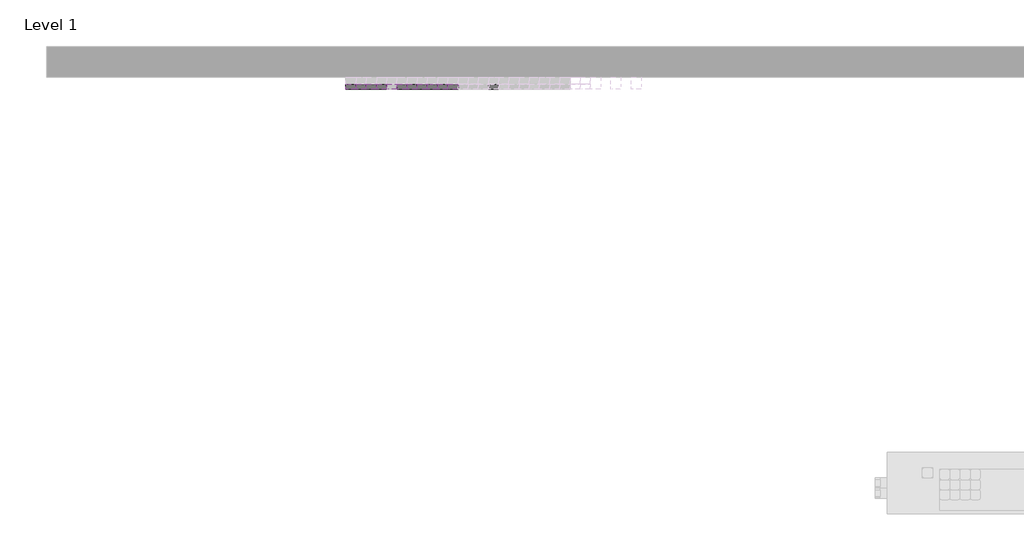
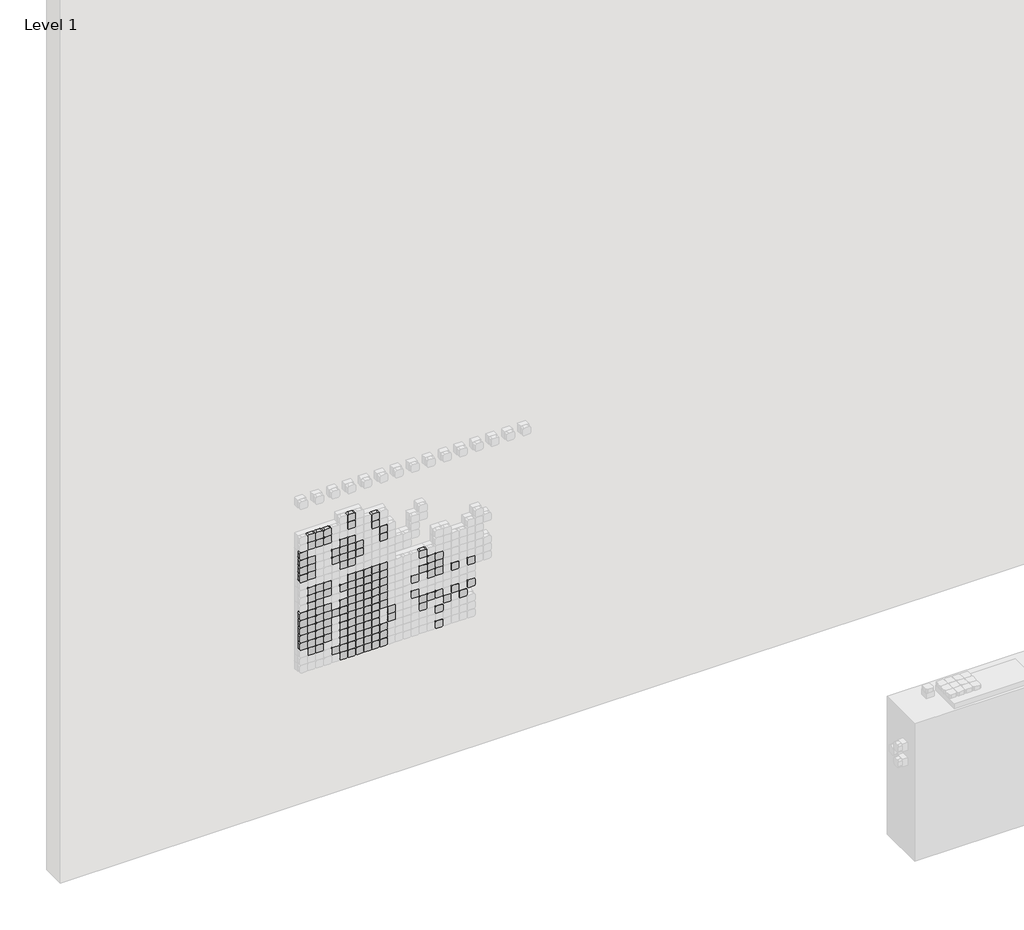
# One storey, part 2 of 71: 149 proxies.
"""IFC4 building model written with IfcOpenShell, lengths in millimetres."""

from ifc_helpers import new_model, si_unit, origin, place, context, project, spatial, transform, mapped, element, save
from components import generic_models_afde289c

model = new_model("IFC4")

# Units and contexts
model_context = context("Model", 3, world=origin())
ifc_project = project(units=[si_unit("LENGTHUNIT", "METRE", prefix="MILLI")], contexts=[model_context])

# Site, building, storey
site = spatial("IfcSite", under=ifc_project)
building = spatial("IfcBuilding", under=site)
storey = spatial("IfcBuildingStorey", under=building, Name="Level 1", Elevation=0.0)

# Proxies
placement = place(None, origin())
generic_models_shape = generic_models_afde289c(model_context)
element("IfcBuildingElementProxy", 1, Name="Pixel_M : Pixel_M", ObjectType="Pixel_M : Pixel_M", at=placement, inside=storey, context=model_context, shape_type="MappedRepresentation", body=[
    mapped(generic_models_shape, transform((2520.0, -75.0, 1263.7975209), x_axis=(1.0, 0.0, 0.0), y_axis=(0.0, 0.0, 1.0), z_axis=(0.0, -1.0, 0.0))),
])
element("IfcBuildingElementProxy", 2, Name="Pixel_M : Pixel_M", ObjectType="Pixel_M : Pixel_M", at=placement, inside=storey, context=model_context, shape_type="MappedRepresentation", body=[
    mapped(generic_models_shape, transform((2420.0, -75.0, 1263.7975209), x_axis=(1.0, 0.0, 0.0), y_axis=(0.0, 0.0, 1.0), z_axis=(0.0, -1.0, 0.0))),
])
element("IfcBuildingElementProxy", 3, Name="Pixel_M : Pixel_M", ObjectType="Pixel_M : Pixel_M", at=placement, inside=storey, context=model_context, shape_type="MappedRepresentation", body=[
    mapped(generic_models_shape, transform((2520.0, -75.0, 1113.7975209), x_axis=(1.0, 0.0, 0.0), y_axis=(0.0, 0.0, 1.0), z_axis=(0.0, -1.0, 0.0))),
])
element("IfcBuildingElementProxy", 4, Name="Pixel_M : Pixel_M", ObjectType="Pixel_M : Pixel_M", at=placement, inside=storey, context=model_context, shape_type="MappedRepresentation", body=[
    mapped(generic_models_shape, transform((2420.0, -75.0, 1113.7975209), x_axis=(1.0, 0.0, 0.0), y_axis=(0.0, 0.0, 1.0), z_axis=(0.0, -1.0, 0.0))),
])
element("IfcBuildingElementProxy", 5, Name="Pixel_M : Pixel_M", ObjectType="Pixel_M : Pixel_M", at=placement, inside=storey, context=model_context, shape_type="MappedRepresentation", body=[
    mapped(generic_models_shape, transform((2320.0, -75.0, 1013.7975209), x_axis=(1.0, 0.0, 0.0), y_axis=(0.0, 0.0, 1.0), z_axis=(0.0, -1.0, 0.0))),
])
element("IfcBuildingElementProxy", 6, Name="Pixel_M : Pixel_M", ObjectType="Pixel_M : Pixel_M", at=placement, inside=storey, context=model_context, shape_type="MappedRepresentation", body=[
    mapped(generic_models_shape, transform((2320.0, -75.0, 913.7975209), x_axis=(1.0, 0.0, 0.0), y_axis=(0.0, 0.0, 1.0), z_axis=(0.0, -1.0, 0.0))),
])
element("IfcBuildingElementProxy", 7, Name="Pixel_M : Pixel_M", ObjectType="Pixel_M : Pixel_M", at=placement, inside=storey, context=model_context, shape_type="MappedRepresentation", body=[
    mapped(generic_models_shape, transform((1770.0, -75.0, 1663.7975209), x_axis=(1.0, 0.0, 0.0), y_axis=(0.0, 0.0, 1.0), z_axis=(0.0, -1.0, 0.0))),
])
element("IfcBuildingElementProxy", 8, Name="Pixel_M : Pixel_M", ObjectType="Pixel_M : Pixel_M", at=placement, inside=storey, context=model_context, shape_type="MappedRepresentation", body=[
    mapped(generic_models_shape, transform((1720.0, -75.0, 1663.7975209), x_axis=(1.0, 0.0, 0.0), y_axis=(0.0, 0.0, 1.0), z_axis=(0.0, -1.0, 0.0))),
])
element("IfcBuildingElementProxy", 9, Name="Pixel_M : Pixel_M", ObjectType="Pixel_M : Pixel_M", at=placement, inside=storey, context=model_context, shape_type="MappedRepresentation", body=[
    mapped(generic_models_shape, transform((1770.0, -75.0, 1513.7975209), x_axis=(1.0, 0.0, 0.0), y_axis=(0.0, 0.0, 1.0), z_axis=(0.0, -1.0, 0.0))),
])
element("IfcBuildingElementProxy", 10, Name="Pixel_M : Pixel_M", ObjectType="Pixel_M : Pixel_M", at=placement, inside=storey, context=model_context, shape_type="MappedRepresentation", body=[
    mapped(generic_models_shape, transform((1720.0, -75.0, 1513.7975209), x_axis=(1.0, 0.0, 0.0), y_axis=(0.0, 0.0, 1.0), z_axis=(0.0, -1.0, 0.0))),
])
element("IfcBuildingElementProxy", 11, Name="Pixel_M : Pixel_M", ObjectType="Pixel_M : Pixel_M", at=placement, inside=storey, context=model_context, shape_type="MappedRepresentation", body=[
    mapped(generic_models_shape, transform((1820.0, -75.0, 1613.7975209), x_axis=(1.0, 0.0, 0.0), y_axis=(0.0, 0.0, 1.0), z_axis=(0.0, -1.0, 0.0))),
])
element("IfcBuildingElementProxy", 12, Name="Pixel_M : Pixel_M", ObjectType="Pixel_M : Pixel_M", at=placement, inside=storey, context=model_context, shape_type="MappedRepresentation", body=[
    mapped(generic_models_shape, transform((1770.0, -75.0, 1613.7975209), x_axis=(1.0, 0.0, 0.0), y_axis=(0.0, 0.0, 1.0), z_axis=(0.0, -1.0, 0.0))),
])
element("IfcBuildingElementProxy", 13, Name="Pixel_M : Pixel_M", ObjectType="Pixel_M : Pixel_M", at=placement, inside=storey, context=model_context, shape_type="MappedRepresentation", body=[
    mapped(generic_models_shape, transform((1720.0, -75.0, 1613.7975209), x_axis=(1.0, 0.0, 0.0), y_axis=(0.0, 0.0, 1.0), z_axis=(0.0, -1.0, 0.0))),
])
element("IfcBuildingElementProxy", 14, Name="Pixel_M : Pixel_M", ObjectType="Pixel_M : Pixel_M", at=placement, inside=storey, context=model_context, shape_type="MappedRepresentation", body=[
    mapped(generic_models_shape, transform((1670.0, -75.0, 1613.7975209), x_axis=(1.0, 0.0, 0.0), y_axis=(0.0, 0.0, 1.0), z_axis=(0.0, -1.0, 0.0))),
])
element("IfcBuildingElementProxy", 15, Name="Pixel_M : Pixel_M", ObjectType="Pixel_M : Pixel_M", at=placement, inside=storey, context=model_context, shape_type="MappedRepresentation", body=[
    mapped(generic_models_shape, transform((1820.0, -75.0, 1563.7975209), x_axis=(1.0, 0.0, 0.0), y_axis=(0.0, 0.0, 1.0), z_axis=(0.0, -1.0, 0.0))),
])
element("IfcBuildingElementProxy", 16, Name="Pixel_M : Pixel_M", ObjectType="Pixel_M : Pixel_M", at=placement, inside=storey, context=model_context, shape_type="MappedRepresentation", body=[
    mapped(generic_models_shape, transform((1770.0, -75.0, 1563.7975209), x_axis=(1.0, 0.0, 0.0), y_axis=(0.0, 0.0, 1.0), z_axis=(0.0, -1.0, 0.0))),
])
element("IfcBuildingElementProxy", 17, Name="Pixel_M : Pixel_M", ObjectType="Pixel_M : Pixel_M", at=placement, inside=storey, context=model_context, shape_type="MappedRepresentation", body=[
    mapped(generic_models_shape, transform((1720.0, -75.0, 1563.7975209), x_axis=(1.0, 0.0, 0.0), y_axis=(0.0, 0.0, 1.0), z_axis=(0.0, -1.0, 0.0))),
])
element("IfcBuildingElementProxy", 18, Name="Pixel_M : Pixel_M", ObjectType="Pixel_M : Pixel_M", at=placement, inside=storey, context=model_context, shape_type="MappedRepresentation", body=[
    mapped(generic_models_shape, transform((1670.0, -75.0, 1563.7975209), x_axis=(1.0, 0.0, 0.0), y_axis=(0.0, 0.0, 1.0), z_axis=(0.0, -1.0, 0.0))),
])
element("IfcBuildingElementProxy", 19, Name="Pixel_M : Pixel_M", ObjectType="Pixel_M : Pixel_M", at=placement, inside=storey, context=model_context, shape_type="MappedRepresentation", body=[
    mapped(generic_models_shape, transform((1620.0, -75.0, 1413.7975209), x_axis=(1.0, 0.0, 0.0), y_axis=(0.0, 0.0, 1.0), z_axis=(0.0, -1.0, 0.0))),
])
element("IfcBuildingElementProxy", 20, Name="Pixel_M : Pixel_M", ObjectType="Pixel_M : Pixel_M", at=placement, inside=storey, context=model_context, shape_type="MappedRepresentation", body=[
    mapped(generic_models_shape, transform((1570.0, -75.0, 1413.7975209), x_axis=(1.0, 0.0, 0.0), y_axis=(0.0, 0.0, 1.0), z_axis=(0.0, -1.0, 0.0))),
])
element("IfcBuildingElementProxy", 21, Name="Pixel_M : Pixel_M", ObjectType="Pixel_M : Pixel_M", at=placement, inside=storey, context=model_context, shape_type="MappedRepresentation", body=[
    mapped(generic_models_shape, transform((1520.0, -75.0, 1413.7975209), x_axis=(1.0, 0.0, 0.0), y_axis=(0.0, 0.0, 1.0), z_axis=(0.0, -1.0, 0.0))),
])
element("IfcBuildingElementProxy", 22, Name="Pixel_M : Pixel_M", ObjectType="Pixel_M : Pixel_M", at=placement, inside=storey, context=model_context, shape_type="MappedRepresentation", body=[
    mapped(generic_models_shape, transform((1620.0, -75.0, 1363.7975209), x_axis=(1.0, 0.0, 0.0), y_axis=(0.0, 0.0, 1.0), z_axis=(0.0, -1.0, 0.0))),
])
element("IfcBuildingElementProxy", 23, Name="Pixel_M : Pixel_M", ObjectType="Pixel_M : Pixel_M", at=placement, inside=storey, context=model_context, shape_type="MappedRepresentation", body=[
    mapped(generic_models_shape, transform((1570.0, -75.0, 1363.7975209), x_axis=(1.0, 0.0, 0.0), y_axis=(0.0, 0.0, 1.0), z_axis=(0.0, -1.0, 0.0))),
])
element("IfcBuildingElementProxy", 24, Name="Pixel_M : Pixel_M", ObjectType="Pixel_M : Pixel_M", at=placement, inside=storey, context=model_context, shape_type="MappedRepresentation", body=[
    mapped(generic_models_shape, transform((1520.0, -75.0, 1363.7975209), x_axis=(1.0, 0.0, 0.0), y_axis=(0.0, 0.0, 1.0), z_axis=(0.0, -1.0, 0.0))),
])
element("IfcBuildingElementProxy", 25, Name="Pixel_M : Pixel_M", ObjectType="Pixel_M : Pixel_M", at=placement, inside=storey, context=model_context, shape_type="MappedRepresentation", body=[
    mapped(generic_models_shape, transform((1920.0, -75.0, 1063.7975209), x_axis=(1.0, 0.0, 0.0), y_axis=(0.0, 0.0, 1.0), z_axis=(0.0, -1.0, 0.0))),
])
element("IfcBuildingElementProxy", 26, Name="Pixel_M : Pixel_M", ObjectType="Pixel_M : Pixel_M", at=placement, inside=storey, context=model_context, shape_type="MappedRepresentation", body=[
    mapped(generic_models_shape, transform((1870.0, -75.0, 1063.7975209), x_axis=(1.0, 0.0, 0.0), y_axis=(0.0, 0.0, 1.0), z_axis=(0.0, -1.0, 0.0))),
])
element("IfcBuildingElementProxy", 27, Name="Pixel_M : Pixel_M", ObjectType="Pixel_M : Pixel_M", at=placement, inside=storey, context=model_context, shape_type="MappedRepresentation", body=[
    mapped(generic_models_shape, transform((1920.0, -75.0, 1113.7975209), x_axis=(1.0, 0.0, 0.0), y_axis=(0.0, 0.0, 1.0), z_axis=(0.0, -1.0, 0.0))),
])
element("IfcBuildingElementProxy", 28, Name="Pixel_M : Pixel_M", ObjectType="Pixel_M : Pixel_M", at=placement, inside=storey, context=model_context, shape_type="MappedRepresentation", body=[
    mapped(generic_models_shape, transform((1870.0, -75.0, 1113.7975209), x_axis=(1.0, 0.0, 0.0), y_axis=(0.0, 0.0, 1.0), z_axis=(0.0, -1.0, 0.0))),
])
element("IfcBuildingElementProxy", 29, Name="Pixel_M : Pixel_M", ObjectType="Pixel_M : Pixel_M", at=placement, inside=storey, context=model_context, shape_type="MappedRepresentation", body=[
    mapped(generic_models_shape, transform((1820.0, -75.0, 1113.7975209), x_axis=(1.0, 0.0, 0.0), y_axis=(0.0, 0.0, 1.0), z_axis=(0.0, -1.0, 0.0))),
])
element("IfcBuildingElementProxy", 30, Name="Pixel_M : Pixel_M", ObjectType="Pixel_M : Pixel_M", at=placement, inside=storey, context=model_context, shape_type="MappedRepresentation", body=[
    mapped(generic_models_shape, transform((1770.0, -75.0, 1113.7975209), x_axis=(1.0, 0.0, 0.0), y_axis=(0.0, 0.0, 1.0), z_axis=(0.0, -1.0, 0.0))),
])
element("IfcBuildingElementProxy", 31, Name="Pixel_M : Pixel_M", ObjectType="Pixel_M : Pixel_M", at=placement, inside=storey, context=model_context, shape_type="MappedRepresentation", body=[
    mapped(generic_models_shape, transform((1720.0, -75.0, 1113.7975209), x_axis=(1.0, 0.0, 0.0), y_axis=(0.0, 0.0, 1.0), z_axis=(0.0, -1.0, 0.0))),
])
element("IfcBuildingElementProxy", 32, Name="Pixel_M : Pixel_M", ObjectType="Pixel_M : Pixel_M", at=placement, inside=storey, context=model_context, shape_type="MappedRepresentation", body=[
    mapped(generic_models_shape, transform((1820.0, -75.0, 1063.7975209), x_axis=(1.0, 0.0, 0.0), y_axis=(0.0, 0.0, 1.0), z_axis=(0.0, -1.0, 0.0))),
])
element("IfcBuildingElementProxy", 33, Name="Pixel_M : Pixel_M", ObjectType="Pixel_M : Pixel_M", at=placement, inside=storey, context=model_context, shape_type="MappedRepresentation", body=[
    mapped(generic_models_shape, transform((1770.0, -75.0, 1063.7975209), x_axis=(1.0, 0.0, 0.0), y_axis=(0.0, 0.0, 1.0), z_axis=(0.0, -1.0, 0.0))),
])
element("IfcBuildingElementProxy", 34, Name="Pixel_M : Pixel_M", ObjectType="Pixel_M : Pixel_M", at=placement, inside=storey, context=model_context, shape_type="MappedRepresentation", body=[
    mapped(generic_models_shape, transform((1720.0, -75.0, 1063.7975209), x_axis=(1.0, 0.0, 0.0), y_axis=(0.0, 0.0, 1.0), z_axis=(0.0, -1.0, 0.0))),
])
element("IfcBuildingElementProxy", 35, Name="Pixel_M : Pixel_M", ObjectType="Pixel_M : Pixel_M", at=placement, inside=storey, context=model_context, shape_type="MappedRepresentation", body=[
    mapped(generic_models_shape, transform((1970.0, -75.0, 913.7975209), x_axis=(1.0, 0.0, 0.0), y_axis=(0.0, 0.0, 1.0), z_axis=(0.0, -1.0, 0.0))),
])
element("IfcBuildingElementProxy", 36, Name="Pixel_M : Pixel_M", ObjectType="Pixel_M : Pixel_M", at=placement, inside=storey, context=model_context, shape_type="MappedRepresentation", body=[
    mapped(generic_models_shape, transform((1920.0, -75.0, 913.7975209), x_axis=(1.0, 0.0, 0.0), y_axis=(0.0, 0.0, 1.0), z_axis=(0.0, -1.0, 0.0))),
])
element("IfcBuildingElementProxy", 37, Name="Pixel_M : Pixel_M", ObjectType="Pixel_M : Pixel_M", at=placement, inside=storey, context=model_context, shape_type="MappedRepresentation", body=[
    mapped(generic_models_shape, transform((1870.0, -75.0, 913.7975209), x_axis=(1.0, 0.0, 0.0), y_axis=(0.0, 0.0, 1.0), z_axis=(0.0, -1.0, 0.0))),
])
element("IfcBuildingElementProxy", 38, Name="Pixel_M : Pixel_M", ObjectType="Pixel_M : Pixel_M", at=placement, inside=storey, context=model_context, shape_type="MappedRepresentation", body=[
    mapped(generic_models_shape, transform((1970.0, -75.0, 963.7975209), x_axis=(1.0, 0.0, 0.0), y_axis=(0.0, 0.0, 1.0), z_axis=(0.0, -1.0, 0.0))),
])
element("IfcBuildingElementProxy", 39, Name="Pixel_M : Pixel_M", ObjectType="Pixel_M : Pixel_M", at=placement, inside=storey, context=model_context, shape_type="MappedRepresentation", body=[
    mapped(generic_models_shape, transform((1920.0, -75.0, 963.7975209), x_axis=(1.0, 0.0, 0.0), y_axis=(0.0, 0.0, 1.0), z_axis=(0.0, -1.0, 0.0))),
])
element("IfcBuildingElementProxy", 40, Name="Pixel_M : Pixel_M", ObjectType="Pixel_M : Pixel_M", at=placement, inside=storey, context=model_context, shape_type="MappedRepresentation", body=[
    mapped(generic_models_shape, transform((1870.0, -75.0, 963.7975209), x_axis=(1.0, 0.0, 0.0), y_axis=(0.0, 0.0, 1.0), z_axis=(0.0, -1.0, 0.0))),
])
element("IfcBuildingElementProxy", 41, Name="Pixel_M : Pixel_M", ObjectType="Pixel_M : Pixel_M", at=placement, inside=storey, context=model_context, shape_type="MappedRepresentation", body=[
    mapped(generic_models_shape, transform((1820.0, -75.0, 1013.7975209), x_axis=(1.0, 0.0, 0.0), y_axis=(0.0, 0.0, 1.0), z_axis=(0.0, -1.0, 0.0))),
])
element("IfcBuildingElementProxy", 42, Name="Pixel_M : Pixel_M", ObjectType="Pixel_M : Pixel_M", at=placement, inside=storey, context=model_context, shape_type="MappedRepresentation", body=[
    mapped(generic_models_shape, transform((1770.0, -75.0, 1013.7975209), x_axis=(1.0, 0.0, 0.0), y_axis=(0.0, 0.0, 1.0), z_axis=(0.0, -1.0, 0.0))),
])
element("IfcBuildingElementProxy", 43, Name="Pixel_M : Pixel_M", ObjectType="Pixel_M : Pixel_M", at=placement, inside=storey, context=model_context, shape_type="MappedRepresentation", body=[
    mapped(generic_models_shape, transform((1720.0, -75.0, 1013.7975209), x_axis=(1.0, 0.0, 0.0), y_axis=(0.0, 0.0, 1.0), z_axis=(0.0, -1.0, 0.0))),
])
element("IfcBuildingElementProxy", 44, Name="Pixel_M : Pixel_M", ObjectType="Pixel_M : Pixel_M", at=placement, inside=storey, context=model_context, shape_type="MappedRepresentation", body=[
    mapped(generic_models_shape, transform((1820.0, -75.0, 913.7975209), x_axis=(1.0, 0.0, 0.0), y_axis=(0.0, 0.0, 1.0), z_axis=(0.0, -1.0, 0.0))),
])
element("IfcBuildingElementProxy", 45, Name="Pixel_M : Pixel_M", ObjectType="Pixel_M : Pixel_M", at=placement, inside=storey, context=model_context, shape_type="MappedRepresentation", body=[
    mapped(generic_models_shape, transform((1770.0, -75.0, 913.7975209), x_axis=(1.0, 0.0, 0.0), y_axis=(0.0, 0.0, 1.0), z_axis=(0.0, -1.0, 0.0))),
])
element("IfcBuildingElementProxy", 46, Name="Pixel_M : Pixel_M", ObjectType="Pixel_M : Pixel_M", at=placement, inside=storey, context=model_context, shape_type="MappedRepresentation", body=[
    mapped(generic_models_shape, transform((1720.0, -75.0, 913.7975209), x_axis=(1.0, 0.0, 0.0), y_axis=(0.0, 0.0, 1.0), z_axis=(0.0, -1.0, 0.0))),
])
element("IfcBuildingElementProxy", 47, Name="Pixel_M : Pixel_M", ObjectType="Pixel_M : Pixel_M", at=placement, inside=storey, context=model_context, shape_type="MappedRepresentation", body=[
    mapped(generic_models_shape, transform((1970.0, -75.0, 1013.7975209), x_axis=(1.0, 0.0, 0.0), y_axis=(0.0, 0.0, 1.0), z_axis=(0.0, -1.0, 0.0))),
])
element("IfcBuildingElementProxy", 48, Name="Pixel_M : Pixel_M", ObjectType="Pixel_M : Pixel_M", at=placement, inside=storey, context=model_context, shape_type="MappedRepresentation", body=[
    mapped(generic_models_shape, transform((1920.0, -75.0, 1013.7975209), x_axis=(1.0, 0.0, 0.0), y_axis=(0.0, 0.0, 1.0), z_axis=(0.0, -1.0, 0.0))),
])
element("IfcBuildingElementProxy", 49, Name="Pixel_M : Pixel_M", ObjectType="Pixel_M : Pixel_M", at=placement, inside=storey, context=model_context, shape_type="MappedRepresentation", body=[
    mapped(generic_models_shape, transform((1870.0, -75.0, 1013.7975209), x_axis=(1.0, 0.0, 0.0), y_axis=(0.0, 0.0, 1.0), z_axis=(0.0, -1.0, 0.0))),
])
element("IfcBuildingElementProxy", 50, Name="Pixel_M : Pixel_M", ObjectType="Pixel_M : Pixel_M", at=placement, inside=storey, context=model_context, shape_type="MappedRepresentation", body=[
    mapped(generic_models_shape, transform((1820.0, -75.0, 963.7975209), x_axis=(1.0, 0.0, 0.0), y_axis=(0.0, 0.0, 1.0), z_axis=(0.0, -1.0, 0.0))),
])
element("IfcBuildingElementProxy", 51, Name="Pixel_M : Pixel_M", ObjectType="Pixel_M : Pixel_M", at=placement, inside=storey, context=model_context, shape_type="MappedRepresentation", body=[
    mapped(generic_models_shape, transform((1770.0, -75.0, 963.7975209), x_axis=(1.0, 0.0, 0.0), y_axis=(0.0, 0.0, 1.0), z_axis=(0.0, -1.0, 0.0))),
])
element("IfcBuildingElementProxy", 52, Name="Pixel_M : Pixel_M", ObjectType="Pixel_M : Pixel_M", at=placement, inside=storey, context=model_context, shape_type="MappedRepresentation", body=[
    mapped(generic_models_shape, transform((1720.0, -75.0, 963.7975209), x_axis=(1.0, 0.0, 0.0), y_axis=(0.0, 0.0, 1.0), z_axis=(0.0, -1.0, 0.0))),
])
element("IfcBuildingElementProxy", 53, Name="Pixel_M : Pixel_M", ObjectType="Pixel_M : Pixel_M", at=placement, inside=storey, context=model_context, shape_type="MappedRepresentation", body=[
    mapped(generic_models_shape, transform((1670.0, -75.0, 963.7975209), x_axis=(1.0, 0.0, 0.0), y_axis=(0.0, 0.0, 1.0), z_axis=(0.0, -1.0, 0.0))),
])
element("IfcBuildingElementProxy", 54, Name="Pixel_M : Pixel_M", ObjectType="Pixel_M : Pixel_M", at=placement, inside=storey, context=model_context, shape_type="MappedRepresentation", body=[
    mapped(generic_models_shape, transform((2320.0, -75.0, 1263.7975209), x_axis=(1.0, 0.0, 0.0), y_axis=(0.0, 0.0, 1.0), z_axis=(0.0, -1.0, 0.0))),
])
element("IfcBuildingElementProxy", 55, Name="Pixel_M : Pixel_M", ObjectType="Pixel_M : Pixel_M", at=placement, inside=storey, context=model_context, shape_type="MappedRepresentation", body=[
    mapped(generic_models_shape, transform((2270.0, -75.0, 1263.7975209), x_axis=(1.0, 0.0, 0.0), y_axis=(0.0, 0.0, 1.0), z_axis=(0.0, -1.0, 0.0))),
])
element("IfcBuildingElementProxy", 56, Name="Pixel_M : Pixel_M", ObjectType="Pixel_M : Pixel_M", at=placement, inside=storey, context=model_context, shape_type="MappedRepresentation", body=[
    mapped(generic_models_shape, transform((2320.0, -75.0, 1113.7975209), x_axis=(1.0, 0.0, 0.0), y_axis=(0.0, 0.0, 1.0), z_axis=(0.0, -1.0, 0.0))),
])
element("IfcBuildingElementProxy", 57, Name="Pixel_M : Pixel_M", ObjectType="Pixel_M : Pixel_M", at=placement, inside=storey, context=model_context, shape_type="MappedRepresentation", body=[
    mapped(generic_models_shape, transform((2270.0, -75.0, 1113.7975209), x_axis=(1.0, 0.0, 0.0), y_axis=(0.0, 0.0, 1.0), z_axis=(0.0, -1.0, 0.0))),
])
element("IfcBuildingElementProxy", 58, Name="Pixel_M : Pixel_M", ObjectType="Pixel_M : Pixel_M", at=placement, inside=storey, context=model_context, shape_type="MappedRepresentation", body=[
    mapped(generic_models_shape, transform((2470.0, -75.0, 1063.7975209), x_axis=(1.0, 0.0, 0.0), y_axis=(0.0, 0.0, 1.0), z_axis=(0.0, -1.0, 0.0))),
])
element("IfcBuildingElementProxy", 59, Name="Pixel_M : Pixel_M", ObjectType="Pixel_M : Pixel_M", at=placement, inside=storey, context=model_context, shape_type="MappedRepresentation", body=[
    mapped(generic_models_shape, transform((2370.0, -75.0, 1063.7975209), x_axis=(1.0, 0.0, 0.0), y_axis=(0.0, 0.0, 1.0), z_axis=(0.0, -1.0, 0.0))),
])
element("IfcBuildingElementProxy", 60, Name="Pixel_M : Pixel_M", ObjectType="Pixel_M : Pixel_M", at=placement, inside=storey, context=model_context, shape_type="MappedRepresentation", body=[
    mapped(generic_models_shape, transform((1470.0, -75.0, 1663.7975209), x_axis=(1.0, 0.0, 0.0), y_axis=(0.0, 0.0, 1.0), z_axis=(0.0, -1.0, 0.0))),
])
element("IfcBuildingElementProxy", 61, Name="Pixel_M : Pixel_M", ObjectType="Pixel_M : Pixel_M", at=placement, inside=storey, context=model_context, shape_type="MappedRepresentation", body=[
    mapped(generic_models_shape, transform((1520.0, -75.0, 1513.7975209), x_axis=(1.0, 0.0, 0.0), y_axis=(0.0, 0.0, 1.0), z_axis=(0.0, -1.0, 0.0))),
])
element("IfcBuildingElementProxy", 62, Name="Pixel_M : Pixel_M", ObjectType="Pixel_M : Pixel_M", at=placement, inside=storey, context=model_context, shape_type="MappedRepresentation", body=[
    mapped(generic_models_shape, transform((1470.0, -75.0, 1513.7975209), x_axis=(1.0, 0.0, 0.0), y_axis=(0.0, 0.0, 1.0), z_axis=(0.0, -1.0, 0.0))),
])
element("IfcBuildingElementProxy", 63, Name="Pixel_M : Pixel_M", ObjectType="Pixel_M : Pixel_M", at=placement, inside=storey, context=model_context, shape_type="MappedRepresentation", body=[
    mapped(generic_models_shape, transform((1520.0, -75.0, 1613.7975209), x_axis=(1.0, 0.0, 0.0), y_axis=(0.0, 0.0, 1.0), z_axis=(0.0, -1.0, 0.0))),
])
element("IfcBuildingElementProxy", 64, Name="Pixel_M : Pixel_M", ObjectType="Pixel_M : Pixel_M", at=placement, inside=storey, context=model_context, shape_type="MappedRepresentation", body=[
    mapped(generic_models_shape, transform((1470.0, -75.0, 1613.7975209), x_axis=(1.0, 0.0, 0.0), y_axis=(0.0, 0.0, 1.0), z_axis=(0.0, -1.0, 0.0))),
])
element("IfcBuildingElementProxy", 65, Name="Pixel_M : Pixel_M", ObjectType="Pixel_M : Pixel_M", at=placement, inside=storey, context=model_context, shape_type="MappedRepresentation", body=[
    mapped(generic_models_shape, transform((1520.0, -75.0, 1563.7975209), x_axis=(1.0, 0.0, 0.0), y_axis=(0.0, 0.0, 1.0), z_axis=(0.0, -1.0, 0.0))),
])
element("IfcBuildingElementProxy", 66, Name="Pixel_M : Pixel_M", ObjectType="Pixel_M : Pixel_M", at=placement, inside=storey, context=model_context, shape_type="MappedRepresentation", body=[
    mapped(generic_models_shape, transform((1470.0, -75.0, 1563.7975209), x_axis=(1.0, 0.0, 0.0), y_axis=(0.0, 0.0, 1.0), z_axis=(0.0, -1.0, 0.0))),
])
element("IfcBuildingElementProxy", 67, Name="Pixel_M : Pixel_M", ObjectType="Pixel_M : Pixel_M", at=placement, inside=storey, context=model_context, shape_type="MappedRepresentation", body=[
    mapped(generic_models_shape, transform((1770.0, -75.0, 1813.7975209), x_axis=(1.0, 0.0, 0.0), y_axis=(0.0, 0.0, 1.0), z_axis=(0.0, -1.0, 0.0))),
])
element("IfcBuildingElementProxy", 68, Name="Pixel_M : Pixel_M", ObjectType="Pixel_M : Pixel_M", at=placement, inside=storey, context=model_context, shape_type="MappedRepresentation", body=[
    mapped(generic_models_shape, transform((1770.0, -75.0, 1763.7975209), x_axis=(1.0, 0.0, 0.0), y_axis=(0.0, 0.0, 1.0), z_axis=(0.0, -1.0, 0.0))),
])
element("IfcBuildingElementProxy", 69, Name="Pixel_M : Pixel_M", ObjectType="Pixel_M : Pixel_M", at=placement, inside=storey, context=model_context, shape_type="MappedRepresentation", body=[
    mapped(generic_models_shape, transform((1970.0, -75.0, 1663.7975209), x_axis=(1.0, 0.0, 0.0), y_axis=(0.0, 0.0, 1.0), z_axis=(0.0, -1.0, 0.0))),
])
element("IfcBuildingElementProxy", 70, Name="Pixel_M : Pixel_M", ObjectType="Pixel_M : Pixel_M", at=placement, inside=storey, context=model_context, shape_type="MappedRepresentation", body=[
    mapped(generic_models_shape, transform((1970.0, -75.0, 1613.7975209), x_axis=(1.0, 0.0, 0.0), y_axis=(0.0, 0.0, 1.0), z_axis=(0.0, -1.0, 0.0))),
])
element("IfcBuildingElementProxy", 71, Name="Pixel_M : Pixel_M", ObjectType="Pixel_M : Pixel_M", at=placement, inside=storey, context=model_context, shape_type="MappedRepresentation", body=[
    mapped(generic_models_shape, transform((1920.0, -75.0, 1763.7975209), x_axis=(1.0, 0.0, 0.0), y_axis=(0.0, 0.0, 1.0), z_axis=(0.0, -1.0, 0.0))),
])
element("IfcBuildingElementProxy", 72, Name="Pixel_M : Pixel_M", ObjectType="Pixel_M : Pixel_M", at=placement, inside=storey, context=model_context, shape_type="MappedRepresentation", body=[
    mapped(generic_models_shape, transform((1920.0, -75.0, 1713.7975209), x_axis=(1.0, 0.0, 0.0), y_axis=(0.0, 0.0, 1.0), z_axis=(0.0, -1.0, 0.0))),
])
element("IfcBuildingElementProxy", 73, Name="Pixel_M : Pixel_M", ObjectType="Pixel_M : Pixel_M", at=placement, inside=storey, context=model_context, shape_type="MappedRepresentation", body=[
    mapped(generic_models_shape, transform((2170.0, -75.0, 1263.7975209), x_axis=(1.0, 0.0, 0.0), y_axis=(0.0, 0.0, 1.0), z_axis=(0.0, -1.0, 0.0))),
])
element("IfcBuildingElementProxy", 74, Name="Pixel_M : Pixel_M", ObjectType="Pixel_M : Pixel_M", at=placement, inside=storey, context=model_context, shape_type="MappedRepresentation", body=[
    mapped(generic_models_shape, transform((2170.0, -75.0, 1163.7975209), x_axis=(1.0, 0.0, 0.0), y_axis=(0.0, 0.0, 1.0), z_axis=(0.0, -1.0, 0.0))),
])
element("IfcBuildingElementProxy", 75, Name="Pixel_M : Pixel_M", ObjectType="Pixel_M : Pixel_M", at=placement, inside=storey, context=model_context, shape_type="MappedRepresentation", body=[
    mapped(generic_models_shape, transform((2220.0, -75.0, 1113.7975209), x_axis=(1.0, 0.0, 0.0), y_axis=(0.0, 0.0, 1.0), z_axis=(0.0, -1.0, 0.0))),
])
element("IfcBuildingElementProxy", 76, Name="Pixel_M : Pixel_M", ObjectType="Pixel_M : Pixel_M", at=placement, inside=storey, context=model_context, shape_type="MappedRepresentation", body=[
    mapped(generic_models_shape, transform((2020.0, -75.0, 1113.7975209), x_axis=(1.0, 0.0, 0.0), y_axis=(0.0, 0.0, 1.0), z_axis=(0.0, -1.0, 0.0))),
])
element("IfcBuildingElementProxy", 77, Name="Pixel_M : Pixel_M", ObjectType="Pixel_M : Pixel_M", at=placement, inside=storey, context=model_context, shape_type="MappedRepresentation", body=[
    mapped(generic_models_shape, transform((2220.0, -75.0, 1063.7975209), x_axis=(1.0, 0.0, 0.0), y_axis=(0.0, 0.0, 1.0), z_axis=(0.0, -1.0, 0.0))),
])
element("IfcBuildingElementProxy", 78, Name="Pixel_M : Pixel_M", ObjectType="Pixel_M : Pixel_M", at=placement, inside=storey, context=model_context, shape_type="MappedRepresentation", body=[
    mapped(generic_models_shape, transform((2020.0, -75.0, 1063.7975209), x_axis=(1.0, 0.0, 0.0), y_axis=(0.0, 0.0, 1.0), z_axis=(0.0, -1.0, 0.0))),
])
element("IfcBuildingElementProxy", 79, Name="Pixel_M : Pixel_M", ObjectType="Pixel_M : Pixel_M", at=placement, inside=storey, context=model_context, shape_type="MappedRepresentation", body=[
    mapped(generic_models_shape, transform((2220.0, -75.0, 1413.7975209), x_axis=(1.0, 0.0, 0.0), y_axis=(0.0, 0.0, 1.0), z_axis=(0.0, -1.0, 0.0))),
])
element("IfcBuildingElementProxy", 80, Name="Pixel_M : Pixel_M", ObjectType="Pixel_M : Pixel_M", at=placement, inside=storey, context=model_context, shape_type="MappedRepresentation", body=[
    mapped(generic_models_shape, transform((2220.0, -75.0, 1313.7975209), x_axis=(1.0, 0.0, 0.0), y_axis=(0.0, 0.0, 1.0), z_axis=(0.0, -1.0, 0.0))),
])
element("IfcBuildingElementProxy", 81, Name="Pixel_M : Pixel_M", ObjectType="Pixel_M : Pixel_M", at=placement, inside=storey, context=model_context, shape_type="MappedRepresentation", body=[
    mapped(generic_models_shape, transform((2320.0, -75.0, 1363.7975209), x_axis=(1.0, 0.0, 0.0), y_axis=(0.0, 0.0, 1.0), z_axis=(0.0, -1.0, 0.0))),
])
element("IfcBuildingElementProxy", 82, Name="Pixel_M : Pixel_M", ObjectType="Pixel_M : Pixel_M", at=placement, inside=storey, context=model_context, shape_type="MappedRepresentation", body=[
    mapped(generic_models_shape, transform((2270.0, -75.0, 1363.7975209), x_axis=(1.0, 0.0, 0.0), y_axis=(0.0, 0.0, 1.0), z_axis=(0.0, -1.0, 0.0))),
])
element("IfcBuildingElementProxy", 83, Name="Pixel_M : Pixel_M", ObjectType="Pixel_M : Pixel_M", at=placement, inside=storey, context=model_context, shape_type="MappedRepresentation", body=[
    mapped(generic_models_shape, transform((2320.0, -75.0, 1313.7975209), x_axis=(1.0, 0.0, 0.0), y_axis=(0.0, 0.0, 1.0), z_axis=(0.0, -1.0, 0.0))),
])
element("IfcBuildingElementProxy", 84, Name="Pixel_M : Pixel_M", ObjectType="Pixel_M : Pixel_M", at=placement, inside=storey, context=model_context, shape_type="MappedRepresentation", body=[
    mapped(generic_models_shape, transform((2270.0, -75.0, 1313.7975209), x_axis=(1.0, 0.0, 0.0), y_axis=(0.0, 0.0, 1.0), z_axis=(0.0, -1.0, 0.0))),
])
element("IfcBuildingElementProxy", 85, Name="Pixel_M : Pixel_M", ObjectType="Pixel_M : Pixel_M", at=placement, inside=storey, context=model_context, shape_type="MappedRepresentation", body=[
    mapped(generic_models_shape, transform((1620.0, -75.0, 1763.7975209), x_axis=(1.0, 0.0, 0.0), y_axis=(0.0, 0.0, 1.0), z_axis=(0.0, -1.0, 0.0))),
])
element("IfcBuildingElementProxy", 86, Name="Pixel_M : Pixel_M", ObjectType="Pixel_M : Pixel_M", at=placement, inside=storey, context=model_context, shape_type="MappedRepresentation", body=[
    mapped(generic_models_shape, transform((1570.0, -75.0, 1763.7975209), x_axis=(1.0, 0.0, 0.0), y_axis=(0.0, 0.0, 1.0), z_axis=(0.0, -1.0, 0.0))),
])
element("IfcBuildingElementProxy", 87, Name="Pixel_M : Pixel_M", ObjectType="Pixel_M : Pixel_M", at=placement, inside=storey, context=model_context, shape_type="MappedRepresentation", body=[
    mapped(generic_models_shape, transform((1520.0, -75.0, 1763.7975209), x_axis=(1.0, 0.0, 0.0), y_axis=(0.0, 0.0, 1.0), z_axis=(0.0, -1.0, 0.0))),
])
element("IfcBuildingElementProxy", 88, Name="Pixel_M : Pixel_M", ObjectType="Pixel_M : Pixel_M", at=placement, inside=storey, context=model_context, shape_type="MappedRepresentation", body=[
    mapped(generic_models_shape, transform((1620.0, -75.0, 1713.7975209), x_axis=(1.0, 0.0, 0.0), y_axis=(0.0, 0.0, 1.0), z_axis=(0.0, -1.0, 0.0))),
])
element("IfcBuildingElementProxy", 89, Name="Pixel_M : Pixel_M", ObjectType="Pixel_M : Pixel_M", at=placement, inside=storey, context=model_context, shape_type="MappedRepresentation", body=[
    mapped(generic_models_shape, transform((1570.0, -75.0, 1713.7975209), x_axis=(1.0, 0.0, 0.0), y_axis=(0.0, 0.0, 1.0), z_axis=(0.0, -1.0, 0.0))),
])
element("IfcBuildingElementProxy", 90, Name="Pixel_M : Pixel_M", ObjectType="Pixel_M : Pixel_M", at=placement, inside=storey, context=model_context, shape_type="MappedRepresentation", body=[
    mapped(generic_models_shape, transform((1520.0, -75.0, 1713.7975209), x_axis=(1.0, 0.0, 0.0), y_axis=(0.0, 0.0, 1.0), z_axis=(0.0, -1.0, 0.0))),
])
element("IfcBuildingElementProxy", 91, Name="Pixel_M : Pixel_M", ObjectType="Pixel_M : Pixel_M", at=placement, inside=storey, context=model_context, shape_type="MappedRepresentation", body=[
    mapped(generic_models_shape, transform((1570.0, -75.0, 1313.7975209), x_axis=(1.0, 0.0, 0.0), y_axis=(0.0, 0.0, 1.0), z_axis=(0.0, -1.0, 0.0))),
])
element("IfcBuildingElementProxy", 92, Name="Pixel_M : Pixel_M", ObjectType="Pixel_M : Pixel_M", at=placement, inside=storey, context=model_context, shape_type="MappedRepresentation", body=[
    mapped(generic_models_shape, transform((1520.0, -75.0, 1313.7975209), x_axis=(1.0, 0.0, 0.0), y_axis=(0.0, 0.0, 1.0), z_axis=(0.0, -1.0, 0.0))),
])
element("IfcBuildingElementProxy", 93, Name="Pixel_M : Pixel_M", ObjectType="Pixel_M : Pixel_M", at=placement, inside=storey, context=model_context, shape_type="MappedRepresentation", body=[
    mapped(generic_models_shape, transform((1570.0, -75.0, 1013.7975209), x_axis=(1.0, 0.0, 0.0), y_axis=(0.0, 0.0, 1.0), z_axis=(0.0, -1.0, 0.0))),
])
element("IfcBuildingElementProxy", 94, Name="Pixel_M : Pixel_M", ObjectType="Pixel_M : Pixel_M", at=placement, inside=storey, context=model_context, shape_type="MappedRepresentation", body=[
    mapped(generic_models_shape, transform((1520.0, -75.0, 1013.7975209), x_axis=(1.0, 0.0, 0.0), y_axis=(0.0, 0.0, 1.0), z_axis=(0.0, -1.0, 0.0))),
])
element("IfcBuildingElementProxy", 95, Name="Pixel_M : Pixel_M", ObjectType="Pixel_M : Pixel_M", at=placement, inside=storey, context=model_context, shape_type="MappedRepresentation", body=[
    mapped(generic_models_shape, transform((1620.0, -75.0, 1263.7975209), x_axis=(1.0, 0.0, 0.0), y_axis=(0.0, 0.0, 1.0), z_axis=(0.0, -1.0, 0.0))),
])
element("IfcBuildingElementProxy", 96, Name="Pixel_M : Pixel_M", ObjectType="Pixel_M : Pixel_M", at=placement, inside=storey, context=model_context, shape_type="MappedRepresentation", body=[
    mapped(generic_models_shape, transform((1570.0, -75.0, 1263.7975209), x_axis=(1.0, 0.0, 0.0), y_axis=(0.0, 0.0, 1.0), z_axis=(0.0, -1.0, 0.0))),
])
element("IfcBuildingElementProxy", 97, Name="Pixel_M : Pixel_M", ObjectType="Pixel_M : Pixel_M", at=placement, inside=storey, context=model_context, shape_type="MappedRepresentation", body=[
    mapped(generic_models_shape, transform((1520.0, -75.0, 1263.7975209), x_axis=(1.0, 0.0, 0.0), y_axis=(0.0, 0.0, 1.0), z_axis=(0.0, -1.0, 0.0))),
])
element("IfcBuildingElementProxy", 98, Name="Pixel_M : Pixel_M", ObjectType="Pixel_M : Pixel_M", at=placement, inside=storey, context=model_context, shape_type="MappedRepresentation", body=[
    mapped(generic_models_shape, transform((1470.0, -75.0, 1263.7975209), x_axis=(1.0, 0.0, 0.0), y_axis=(0.0, 0.0, 1.0), z_axis=(0.0, -1.0, 0.0))),
])
element("IfcBuildingElementProxy", 99, Name="Pixel_M : Pixel_M", ObjectType="Pixel_M : Pixel_M", at=placement, inside=storey, context=model_context, shape_type="MappedRepresentation", body=[
    mapped(generic_models_shape, transform((1620.0, -75.0, 1213.7975209), x_axis=(1.0, 0.0, 0.0), y_axis=(0.0, 0.0, 1.0), z_axis=(0.0, -1.0, 0.0))),
])
element("IfcBuildingElementProxy", 100, Name="Pixel_M : Pixel_M", ObjectType="Pixel_M : Pixel_M", at=placement, inside=storey, context=model_context, shape_type="MappedRepresentation", body=[
    mapped(generic_models_shape, transform((1570.0, -75.0, 1213.7975209), x_axis=(1.0, 0.0, 0.0), y_axis=(0.0, 0.0, 1.0), z_axis=(0.0, -1.0, 0.0))),
])
element("IfcBuildingElementProxy", 101, Name="Pixel_M : Pixel_M", ObjectType="Pixel_M : Pixel_M", at=placement, inside=storey, context=model_context, shape_type="MappedRepresentation", body=[
    mapped(generic_models_shape, transform((1520.0, -75.0, 1213.7975209), x_axis=(1.0, 0.0, 0.0), y_axis=(0.0, 0.0, 1.0), z_axis=(0.0, -1.0, 0.0))),
])
element("IfcBuildingElementProxy", 102, Name="Pixel_M : Pixel_M", ObjectType="Pixel_M : Pixel_M", at=placement, inside=storey, context=model_context, shape_type="MappedRepresentation", body=[
    mapped(generic_models_shape, transform((1470.0, -75.0, 1213.7975209), x_axis=(1.0, 0.0, 0.0), y_axis=(0.0, 0.0, 1.0), z_axis=(0.0, -1.0, 0.0))),
])
element("IfcBuildingElementProxy", 103, Name="Pixel_M : Pixel_M", ObjectType="Pixel_M : Pixel_M", at=placement, inside=storey, context=model_context, shape_type="MappedRepresentation", body=[
    mapped(generic_models_shape, transform((1620.0, -75.0, 1163.7975209), x_axis=(1.0, 0.0, 0.0), y_axis=(0.0, 0.0, 1.0), z_axis=(0.0, -1.0, 0.0))),
])
element("IfcBuildingElementProxy", 104, Name="Pixel_M : Pixel_M", ObjectType="Pixel_M : Pixel_M", at=placement, inside=storey, context=model_context, shape_type="MappedRepresentation", body=[
    mapped(generic_models_shape, transform((1570.0, -75.0, 1163.7975209), x_axis=(1.0, 0.0, 0.0), y_axis=(0.0, 0.0, 1.0), z_axis=(0.0, -1.0, 0.0))),
])
element("IfcBuildingElementProxy", 105, Name="Pixel_M : Pixel_M", ObjectType="Pixel_M : Pixel_M", at=placement, inside=storey, context=model_context, shape_type="MappedRepresentation", body=[
    mapped(generic_models_shape, transform((1520.0, -75.0, 1163.7975209), x_axis=(1.0, 0.0, 0.0), y_axis=(0.0, 0.0, 1.0), z_axis=(0.0, -1.0, 0.0))),
])
element("IfcBuildingElementProxy", 106, Name="Pixel_M : Pixel_M", ObjectType="Pixel_M : Pixel_M", at=placement, inside=storey, context=model_context, shape_type="MappedRepresentation", body=[
    mapped(generic_models_shape, transform((1470.0, -75.0, 1163.7975209), x_axis=(1.0, 0.0, 0.0), y_axis=(0.0, 0.0, 1.0), z_axis=(0.0, -1.0, 0.0))),
])
element("IfcBuildingElementProxy", 107, Name="Pixel_M : Pixel_M", ObjectType="Pixel_M : Pixel_M", at=placement, inside=storey, context=model_context, shape_type="MappedRepresentation", body=[
    mapped(generic_models_shape, transform((1620.0, -75.0, 1113.7975209), x_axis=(1.0, 0.0, 0.0), y_axis=(0.0, 0.0, 1.0), z_axis=(0.0, -1.0, 0.0))),
])
element("IfcBuildingElementProxy", 108, Name="Pixel_M : Pixel_M", ObjectType="Pixel_M : Pixel_M", at=placement, inside=storey, context=model_context, shape_type="MappedRepresentation", body=[
    mapped(generic_models_shape, transform((1570.0, -75.0, 1113.7975209), x_axis=(1.0, 0.0, 0.0), y_axis=(0.0, 0.0, 1.0), z_axis=(0.0, -1.0, 0.0))),
])
element("IfcBuildingElementProxy", 109, Name="Pixel_M : Pixel_M", ObjectType="Pixel_M : Pixel_M", at=placement, inside=storey, context=model_context, shape_type="MappedRepresentation", body=[
    mapped(generic_models_shape, transform((1520.0, -75.0, 1113.7975209), x_axis=(1.0, 0.0, 0.0), y_axis=(0.0, 0.0, 1.0), z_axis=(0.0, -1.0, 0.0))),
])
element("IfcBuildingElementProxy", 110, Name="Pixel_M : Pixel_M", ObjectType="Pixel_M : Pixel_M", at=placement, inside=storey, context=model_context, shape_type="MappedRepresentation", body=[
    mapped(generic_models_shape, transform((1470.0, -75.0, 1113.7975209), x_axis=(1.0, 0.0, 0.0), y_axis=(0.0, 0.0, 1.0), z_axis=(0.0, -1.0, 0.0))),
])
element("IfcBuildingElementProxy", 111, Name="Pixel_M : Pixel_M", ObjectType="Pixel_M : Pixel_M", at=placement, inside=storey, context=model_context, shape_type="MappedRepresentation", body=[
    mapped(generic_models_shape, transform((1620.0, -75.0, 1063.7975209), x_axis=(1.0, 0.0, 0.0), y_axis=(0.0, 0.0, 1.0), z_axis=(0.0, -1.0, 0.0))),
])
element("IfcBuildingElementProxy", 112, Name="Pixel_M : Pixel_M", ObjectType="Pixel_M : Pixel_M", at=placement, inside=storey, context=model_context, shape_type="MappedRepresentation", body=[
    mapped(generic_models_shape, transform((1570.0, -75.0, 1063.7975209), x_axis=(1.0, 0.0, 0.0), y_axis=(0.0, 0.0, 1.0), z_axis=(0.0, -1.0, 0.0))),
])
element("IfcBuildingElementProxy", 113, Name="Pixel_M : Pixel_M", ObjectType="Pixel_M : Pixel_M", at=placement, inside=storey, context=model_context, shape_type="MappedRepresentation", body=[
    mapped(generic_models_shape, transform((1520.0, -75.0, 1063.7975209), x_axis=(1.0, 0.0, 0.0), y_axis=(0.0, 0.0, 1.0), z_axis=(0.0, -1.0, 0.0))),
])
element("IfcBuildingElementProxy", 114, Name="Pixel_M : Pixel_M", ObjectType="Pixel_M : Pixel_M", at=placement, inside=storey, context=model_context, shape_type="MappedRepresentation", body=[
    mapped(generic_models_shape, transform((1470.0, -75.0, 1063.7975209), x_axis=(1.0, 0.0, 0.0), y_axis=(0.0, 0.0, 1.0), z_axis=(0.0, -1.0, 0.0))),
])
element("IfcBuildingElementProxy", 115, Name="Pixel_M : Pixel_M", ObjectType="Pixel_M : Pixel_M", at=placement, inside=storey, context=model_context, shape_type="MappedRepresentation", body=[
    mapped(generic_models_shape, transform((1970.0, -75.0, 1163.7975209), x_axis=(1.0, 0.0, 0.0), y_axis=(0.0, 0.0, 1.0), z_axis=(0.0, -1.0, 0.0))),
])
element("IfcBuildingElementProxy", 116, Name="Pixel_M : Pixel_M", ObjectType="Pixel_M : Pixel_M", at=placement, inside=storey, context=model_context, shape_type="MappedRepresentation", body=[
    mapped(generic_models_shape, transform((1920.0, -75.0, 1163.7975209), x_axis=(1.0, 0.0, 0.0), y_axis=(0.0, 0.0, 1.0), z_axis=(0.0, -1.0, 0.0))),
])
element("IfcBuildingElementProxy", 117, Name="Pixel_M : Pixel_M", ObjectType="Pixel_M : Pixel_M", at=placement, inside=storey, context=model_context, shape_type="MappedRepresentation", body=[
    mapped(generic_models_shape, transform((1870.0, -75.0, 1163.7975209), x_axis=(1.0, 0.0, 0.0), y_axis=(0.0, 0.0, 1.0), z_axis=(0.0, -1.0, 0.0))),
])
element("IfcBuildingElementProxy", 118, Name="Pixel_M : Pixel_M", ObjectType="Pixel_M : Pixel_M", at=placement, inside=storey, context=model_context, shape_type="MappedRepresentation", body=[
    mapped(generic_models_shape, transform((1970.0, -75.0, 1213.7975209), x_axis=(1.0, 0.0, 0.0), y_axis=(0.0, 0.0, 1.0), z_axis=(0.0, -1.0, 0.0))),
])
element("IfcBuildingElementProxy", 119, Name="Pixel_M : Pixel_M", ObjectType="Pixel_M : Pixel_M", at=placement, inside=storey, context=model_context, shape_type="MappedRepresentation", body=[
    mapped(generic_models_shape, transform((1920.0, -75.0, 1213.7975209), x_axis=(1.0, 0.0, 0.0), y_axis=(0.0, 0.0, 1.0), z_axis=(0.0, -1.0, 0.0))),
])
element("IfcBuildingElementProxy", 120, Name="Pixel_M : Pixel_M", ObjectType="Pixel_M : Pixel_M", at=placement, inside=storey, context=model_context, shape_type="MappedRepresentation", body=[
    mapped(generic_models_shape, transform((1870.0, -75.0, 1213.7975209), x_axis=(1.0, 0.0, 0.0), y_axis=(0.0, 0.0, 1.0), z_axis=(0.0, -1.0, 0.0))),
])
element("IfcBuildingElementProxy", 121, Name="Pixel_M : Pixel_M", ObjectType="Pixel_M : Pixel_M", at=placement, inside=storey, context=model_context, shape_type="MappedRepresentation", body=[
    mapped(generic_models_shape, transform((1820.0, -75.0, 1263.7975209), x_axis=(1.0, 0.0, 0.0), y_axis=(0.0, 0.0, 1.0), z_axis=(0.0, -1.0, 0.0))),
])
element("IfcBuildingElementProxy", 122, Name="Pixel_M : Pixel_M", ObjectType="Pixel_M : Pixel_M", at=placement, inside=storey, context=model_context, shape_type="MappedRepresentation", body=[
    mapped(generic_models_shape, transform((1770.0, -75.0, 1263.7975209), x_axis=(1.0, 0.0, 0.0), y_axis=(0.0, 0.0, 1.0), z_axis=(0.0, -1.0, 0.0))),
])
element("IfcBuildingElementProxy", 123, Name="Pixel_M : Pixel_M", ObjectType="Pixel_M : Pixel_M", at=placement, inside=storey, context=model_context, shape_type="MappedRepresentation", body=[
    mapped(generic_models_shape, transform((1720.0, -75.0, 1263.7975209), x_axis=(1.0, 0.0, 0.0), y_axis=(0.0, 0.0, 1.0), z_axis=(0.0, -1.0, 0.0))),
])
element("IfcBuildingElementProxy", 124, Name="Pixel_M : Pixel_M", ObjectType="Pixel_M : Pixel_M", at=placement, inside=storey, context=model_context, shape_type="MappedRepresentation", body=[
    mapped(generic_models_shape, transform((1820.0, -75.0, 1163.7975209), x_axis=(1.0, 0.0, 0.0), y_axis=(0.0, 0.0, 1.0), z_axis=(0.0, -1.0, 0.0))),
])
element("IfcBuildingElementProxy", 125, Name="Pixel_M : Pixel_M", ObjectType="Pixel_M : Pixel_M", at=placement, inside=storey, context=model_context, shape_type="MappedRepresentation", body=[
    mapped(generic_models_shape, transform((1770.0, -75.0, 1163.7975209), x_axis=(1.0, 0.0, 0.0), y_axis=(0.0, 0.0, 1.0), z_axis=(0.0, -1.0, 0.0))),
])
element("IfcBuildingElementProxy", 126, Name="Pixel_M : Pixel_M", ObjectType="Pixel_M : Pixel_M", at=placement, inside=storey, context=model_context, shape_type="MappedRepresentation", body=[
    mapped(generic_models_shape, transform((1720.0, -75.0, 1163.7975209), x_axis=(1.0, 0.0, 0.0), y_axis=(0.0, 0.0, 1.0), z_axis=(0.0, -1.0, 0.0))),
])
element("IfcBuildingElementProxy", 127, Name="Pixel_M : Pixel_M", ObjectType="Pixel_M : Pixel_M", at=placement, inside=storey, context=model_context, shape_type="MappedRepresentation", body=[
    mapped(generic_models_shape, transform((1970.0, -75.0, 1263.7975209), x_axis=(1.0, 0.0, 0.0), y_axis=(0.0, 0.0, 1.0), z_axis=(0.0, -1.0, 0.0))),
])
element("IfcBuildingElementProxy", 128, Name="Pixel_M : Pixel_M", ObjectType="Pixel_M : Pixel_M", at=placement, inside=storey, context=model_context, shape_type="MappedRepresentation", body=[
    mapped(generic_models_shape, transform((1920.0, -75.0, 1263.7975209), x_axis=(1.0, 0.0, 0.0), y_axis=(0.0, 0.0, 1.0), z_axis=(0.0, -1.0, 0.0))),
])
element("IfcBuildingElementProxy", 129, Name="Pixel_M : Pixel_M", ObjectType="Pixel_M : Pixel_M", at=placement, inside=storey, context=model_context, shape_type="MappedRepresentation", body=[
    mapped(generic_models_shape, transform((1870.0, -75.0, 1263.7975209), x_axis=(1.0, 0.0, 0.0), y_axis=(0.0, 0.0, 1.0), z_axis=(0.0, -1.0, 0.0))),
])
element("IfcBuildingElementProxy", 130, Name="Pixel_M : Pixel_M", ObjectType="Pixel_M : Pixel_M", at=placement, inside=storey, context=model_context, shape_type="MappedRepresentation", body=[
    mapped(generic_models_shape, transform((1820.0, -75.0, 1213.7975209), x_axis=(1.0, 0.0, 0.0), y_axis=(0.0, 0.0, 1.0), z_axis=(0.0, -1.0, 0.0))),
])
element("IfcBuildingElementProxy", 131, Name="Pixel_M : Pixel_M", ObjectType="Pixel_M : Pixel_M", at=placement, inside=storey, context=model_context, shape_type="MappedRepresentation", body=[
    mapped(generic_models_shape, transform((1770.0, -75.0, 1213.7975209), x_axis=(1.0, 0.0, 0.0), y_axis=(0.0, 0.0, 1.0), z_axis=(0.0, -1.0, 0.0))),
])
element("IfcBuildingElementProxy", 132, Name="Pixel_M : Pixel_M", ObjectType="Pixel_M : Pixel_M", at=placement, inside=storey, context=model_context, shape_type="MappedRepresentation", body=[
    mapped(generic_models_shape, transform((1720.0, -75.0, 1213.7975209), x_axis=(1.0, 0.0, 0.0), y_axis=(0.0, 0.0, 1.0), z_axis=(0.0, -1.0, 0.0))),
])
element("IfcBuildingElementProxy", 133, Name="Pixel_M : Pixel_M", ObjectType="Pixel_M : Pixel_M", at=placement, inside=storey, context=model_context, shape_type="MappedRepresentation", body=[
    mapped(generic_models_shape, transform((1670.0, -75.0, 1213.7975209), x_axis=(1.0, 0.0, 0.0), y_axis=(0.0, 0.0, 1.0), z_axis=(0.0, -1.0, 0.0))),
])
element("IfcBuildingElementProxy", 134, Name="Pixel_M : Pixel_M", ObjectType="Pixel_M : Pixel_M", at=placement, inside=storey, context=model_context, shape_type="MappedRepresentation", body=[
    mapped(generic_models_shape, transform((1970.0, -75.0, 1313.7975209), x_axis=(1.0, 0.0, 0.0), y_axis=(0.0, 0.0, 1.0), z_axis=(0.0, -1.0, 0.0))),
])
element("IfcBuildingElementProxy", 135, Name="Pixel_M : Pixel_M", ObjectType="Pixel_M : Pixel_M", at=placement, inside=storey, context=model_context, shape_type="MappedRepresentation", body=[
    mapped(generic_models_shape, transform((1920.0, -75.0, 1313.7975209), x_axis=(1.0, 0.0, 0.0), y_axis=(0.0, 0.0, 1.0), z_axis=(0.0, -1.0, 0.0))),
])
element("IfcBuildingElementProxy", 136, Name="Pixel_M : Pixel_M", ObjectType="Pixel_M : Pixel_M", at=placement, inside=storey, context=model_context, shape_type="MappedRepresentation", body=[
    mapped(generic_models_shape, transform((1970.0, -75.0, 1363.7975209), x_axis=(1.0, 0.0, 0.0), y_axis=(0.0, 0.0, 1.0), z_axis=(0.0, -1.0, 0.0))),
])
element("IfcBuildingElementProxy", 137, Name="Pixel_M : Pixel_M", ObjectType="Pixel_M : Pixel_M", at=placement, inside=storey, context=model_context, shape_type="MappedRepresentation", body=[
    mapped(generic_models_shape, transform((1920.0, -75.0, 1363.7975209), x_axis=(1.0, 0.0, 0.0), y_axis=(0.0, 0.0, 1.0), z_axis=(0.0, -1.0, 0.0))),
])
element("IfcBuildingElementProxy", 138, Name="Pixel_M : Pixel_M", ObjectType="Pixel_M : Pixel_M", at=placement, inside=storey, context=model_context, shape_type="MappedRepresentation", body=[
    mapped(generic_models_shape, transform((1870.0, -75.0, 1413.7975209), x_axis=(1.0, 0.0, 0.0), y_axis=(0.0, 0.0, 1.0), z_axis=(0.0, -1.0, 0.0))),
])
element("IfcBuildingElementProxy", 139, Name="Pixel_M : Pixel_M", ObjectType="Pixel_M : Pixel_M", at=placement, inside=storey, context=model_context, shape_type="MappedRepresentation", body=[
    mapped(generic_models_shape, transform((1820.0, -75.0, 1413.7975209), x_axis=(1.0, 0.0, 0.0), y_axis=(0.0, 0.0, 1.0), z_axis=(0.0, -1.0, 0.0))),
])
element("IfcBuildingElementProxy", 140, Name="Pixel_M : Pixel_M", ObjectType="Pixel_M : Pixel_M", at=placement, inside=storey, context=model_context, shape_type="MappedRepresentation", body=[
    mapped(generic_models_shape, transform((1770.0, -75.0, 1413.7975209), x_axis=(1.0, 0.0, 0.0), y_axis=(0.0, 0.0, 1.0), z_axis=(0.0, -1.0, 0.0))),
])
element("IfcBuildingElementProxy", 141, Name="Pixel_M : Pixel_M", ObjectType="Pixel_M : Pixel_M", at=placement, inside=storey, context=model_context, shape_type="MappedRepresentation", body=[
    mapped(generic_models_shape, transform((1870.0, -75.0, 1313.7975209), x_axis=(1.0, 0.0, 0.0), y_axis=(0.0, 0.0, 1.0), z_axis=(0.0, -1.0, 0.0))),
])
element("IfcBuildingElementProxy", 142, Name="Pixel_M : Pixel_M", ObjectType="Pixel_M : Pixel_M", at=placement, inside=storey, context=model_context, shape_type="MappedRepresentation", body=[
    mapped(generic_models_shape, transform((1820.0, -75.0, 1313.7975209), x_axis=(1.0, 0.0, 0.0), y_axis=(0.0, 0.0, 1.0), z_axis=(0.0, -1.0, 0.0))),
])
element("IfcBuildingElementProxy", 143, Name="Pixel_M : Pixel_M", ObjectType="Pixel_M : Pixel_M", at=placement, inside=storey, context=model_context, shape_type="MappedRepresentation", body=[
    mapped(generic_models_shape, transform((1770.0, -75.0, 1313.7975209), x_axis=(1.0, 0.0, 0.0), y_axis=(0.0, 0.0, 1.0), z_axis=(0.0, -1.0, 0.0))),
])
element("IfcBuildingElementProxy", 144, Name="Pixel_M : Pixel_M", ObjectType="Pixel_M : Pixel_M", at=placement, inside=storey, context=model_context, shape_type="MappedRepresentation", body=[
    mapped(generic_models_shape, transform((1970.0, -75.0, 1413.7975209), x_axis=(1.0, 0.0, 0.0), y_axis=(0.0, 0.0, 1.0), z_axis=(0.0, -1.0, 0.0))),
])
element("IfcBuildingElementProxy", 145, Name="Pixel_M : Pixel_M", ObjectType="Pixel_M : Pixel_M", at=placement, inside=storey, context=model_context, shape_type="MappedRepresentation", body=[
    mapped(generic_models_shape, transform((1920.0, -75.0, 1413.7975209), x_axis=(1.0, 0.0, 0.0), y_axis=(0.0, 0.0, 1.0), z_axis=(0.0, -1.0, 0.0))),
])
element("IfcBuildingElementProxy", 146, Name="Pixel_M : Pixel_M", ObjectType="Pixel_M : Pixel_M", at=placement, inside=storey, context=model_context, shape_type="MappedRepresentation", body=[
    mapped(generic_models_shape, transform((1870.0, -75.0, 1363.7975209), x_axis=(1.0, 0.0, 0.0), y_axis=(0.0, 0.0, 1.0), z_axis=(0.0, -1.0, 0.0))),
])
element("IfcBuildingElementProxy", 147, Name="Pixel_M : Pixel_M", ObjectType="Pixel_M : Pixel_M", at=placement, inside=storey, context=model_context, shape_type="MappedRepresentation", body=[
    mapped(generic_models_shape, transform((1820.0, -75.0, 1363.7975209), x_axis=(1.0, 0.0, 0.0), y_axis=(0.0, 0.0, 1.0), z_axis=(0.0, -1.0, 0.0))),
])
element("IfcBuildingElementProxy", 148, Name="Pixel_M : Pixel_M", ObjectType="Pixel_M : Pixel_M", at=placement, inside=storey, context=model_context, shape_type="MappedRepresentation", body=[
    mapped(generic_models_shape, transform((1770.0, -75.0, 1363.7975209), x_axis=(1.0, 0.0, 0.0), y_axis=(0.0, 0.0, 1.0), z_axis=(0.0, -1.0, 0.0))),
])
element("IfcBuildingElementProxy", 149, Name="Pixel_M : Pixel_M", ObjectType="Pixel_M : Pixel_M", at=placement, inside=storey, context=model_context, shape_type="MappedRepresentation", body=[
    mapped(generic_models_shape, transform((1720.0, -75.0, 1363.7975209), x_axis=(1.0, 0.0, 0.0), y_axis=(0.0, 0.0, 1.0), z_axis=(0.0, -1.0, 0.0))),
])

save(model, "model.ifc")
